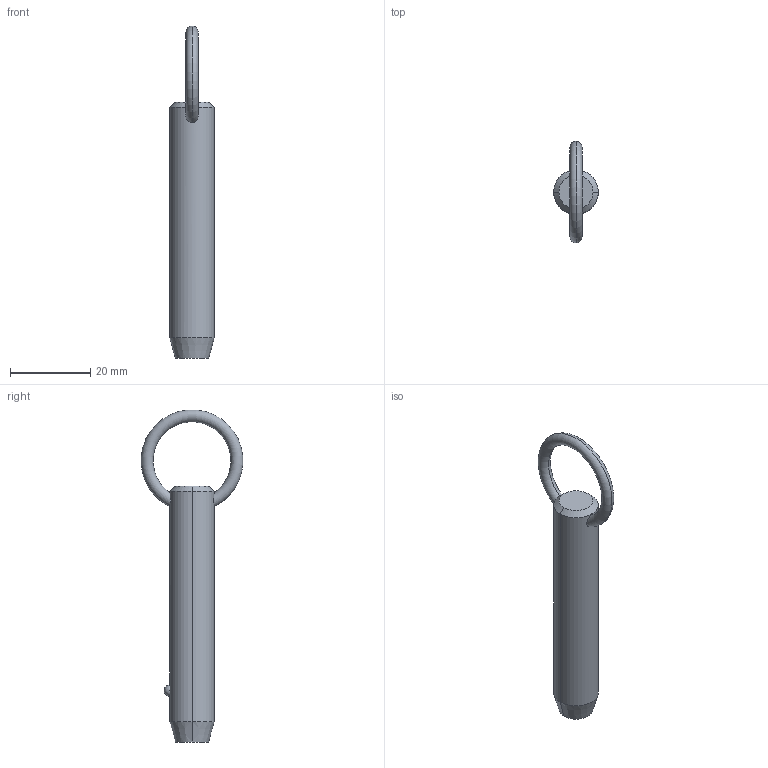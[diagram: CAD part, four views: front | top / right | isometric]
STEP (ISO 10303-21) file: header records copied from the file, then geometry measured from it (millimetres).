
FILE_DESCRIPTION (( 'STEP AP203' ), '1' );
FILE_NAME ('P1250.050-170.step', '2019-07-29T20:30:34', ( '' ), ( '' ), 'SwSTEP 2.0', 'SolidWorks 2017', '' );
FILE_SCHEMA (( 'CONFIG_CONTROL_DESIGN' ));
Length unit declared in the file: millimetre
Products named in the file (1): P1250.050-170
Bounding box: 11.1 x 25.32 x 82.75 mm (x, y, z)
Volume: 6456.6 mm3; surface area: 2877.5 mm2
Topology: 1 solids, 1 shells, 12 faces, 28 edges, 17 vertices
Faces by surface type: cone 4, torus 2, sphere 2, cylinder 2, plane 2
Entity records: 523 total; most frequent: CARTESIAN_POINT 190, DIRECTION 56, ORIENTED_EDGE 48, AXIS2_PLACEMENT_3D 25, EDGE_CURVE 24, EDGE_LOOP 15, VERTEX_POINT 15, ADVANCED_FACE 12
